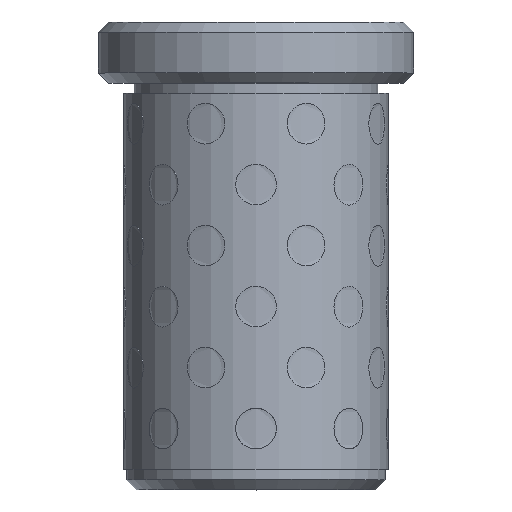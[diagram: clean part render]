
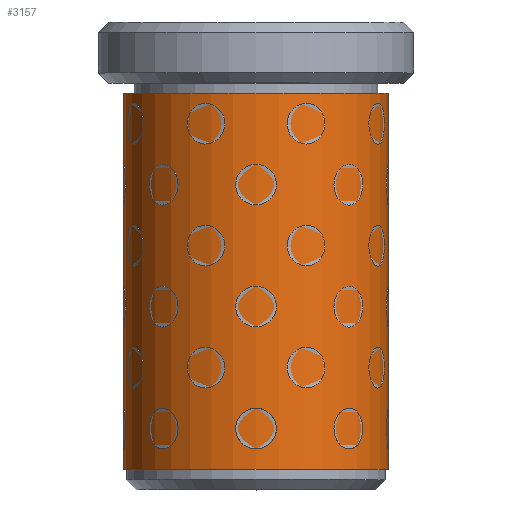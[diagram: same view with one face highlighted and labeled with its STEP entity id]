
A CAD part, top view. The second image highlights one B-rep face of the part: STEP entity #3157.
In plain terms, the highlighted cylindrical face has radius 13 mm (diameter 26 mm), a full revolution.
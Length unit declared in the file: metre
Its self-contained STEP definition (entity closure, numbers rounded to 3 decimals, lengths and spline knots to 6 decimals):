
#3157 = ADVANCED_FACE( '', ( #3382, #3383 ), #3384, .T. );
#3382 = FACE_OUTER_BOUND( '', #3875, .T. );
#3383 = FACE_OUTER_BOUND( '', #3876, .T. );
#3384 = CYLINDRICAL_SURFACE( '', #3877, 0.013 );
#3875 = EDGE_LOOP( '', ( #4384 ) );
#3876 = EDGE_LOOP( '', ( #4385 ) );
#3877 = AXIS2_PLACEMENT_3D( '', #4386, #4387, #4388 );
#4384 = ORIENTED_EDGE( '', *, *, #5260, .T. );
#4385 = ORIENTED_EDGE( '', *, *, #5259, .F. );
#4386 = CARTESIAN_POINT( '', ( 0., 0., 0. ) );
#4387 = DIRECTION( '', ( 0., 1., 0. ) );
#4388 = DIRECTION( '', ( 0., 0., -1. ) );
#5259 = EDGE_CURVE( '', #5410, #5410, #5411, .T. );
#5260 = EDGE_CURVE( '', #5412, #5412, #5413, .T. );
#5410 = VERTEX_POINT( '', #5696 );
#5411 = CIRCLE( '', #5697, 0.013 );
#5412 = VERTEX_POINT( '', #5698 );
#5413 = CIRCLE( '', #5699, 0.013 );
#5696 = CARTESIAN_POINT( '', ( 0., 0.002, -0.013 ) );
#5697 = AXIS2_PLACEMENT_3D( '', #12902, #12903, #12904 );
#5698 = CARTESIAN_POINT( '', ( 0., 0.039, -0.013 ) );
#5699 = AXIS2_PLACEMENT_3D( '', #12905, #12906, #12907 );
#12902 = CARTESIAN_POINT( '', ( 0., 0.002, 0. ) );
#12903 = DIRECTION( '', ( 0., -1., 0. ) );
#12904 = DIRECTION( '', ( 0., 0., -1. ) );
#12905 = CARTESIAN_POINT( '', ( 0., 0.039, 0. ) );
#12906 = DIRECTION( '', ( 0., -1., 0. ) );
#12907 = DIRECTION( '', ( 0., 0., -1. ) );
